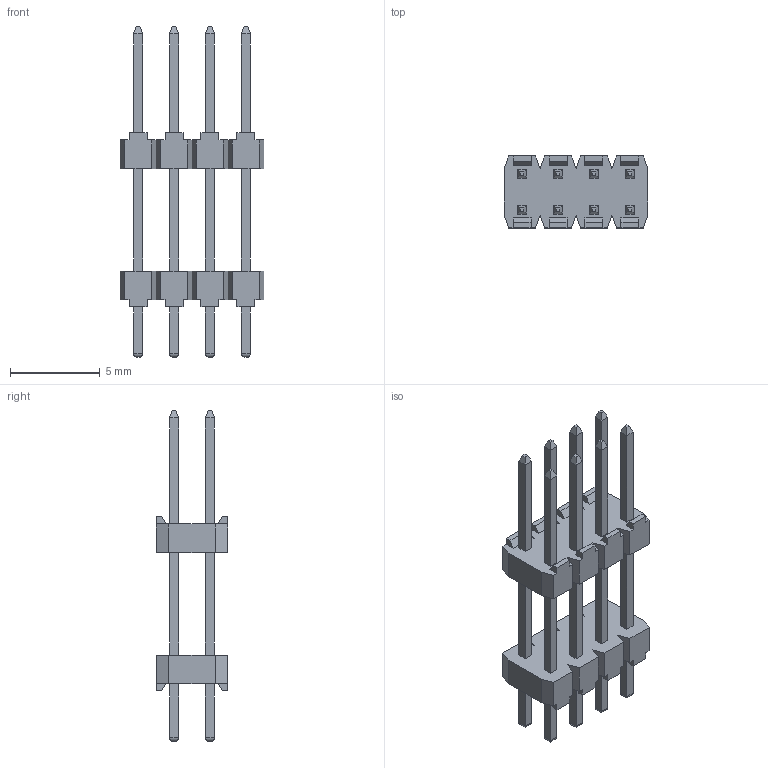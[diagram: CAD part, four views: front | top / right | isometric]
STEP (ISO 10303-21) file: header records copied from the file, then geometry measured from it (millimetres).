
FILE_DESCRIPTION(/* description */ (''),/* implementation_level */ '2;1');
FILE_NAME(/* name */ '951408-8061906-AR',/* time_stamp */ '2007-03-14T10:54:06+01:00',/* author */ (''),/* organization */ (''),/* preprocessor_version */ 'ST-DEVELOPER v9',/* originating_system */ 'UGS - NX 4.0',/* authorisation */ '');
FILE_SCHEMA (('AUTOMOTIVE_DESIGN { 1 0 10303 214 1 1 1 1 }'));
Length unit declared in the file: millimetre
Products named in the file (1): 951408-8061906-AR
Bounding box: 8 x 4 x 18.4 mm (x, y, z)
Volume: 130.5 mm3; surface area: 465.2 mm2
Topology: 1 solids, 1 shells, 296 faces, 764 edges, 488 vertices
Faces by surface type: plane 264, cylinder 32
Entity records: 8820 total; most frequent: CARTESIAN_POINT 1549, ORIENTED_EDGE 1528, DIRECTION 1390, EDGE_CURVE 764, LINE 732, VECTOR 732, VERTEX_POINT 488, AXIS2_PLACEMENT_3D 329
